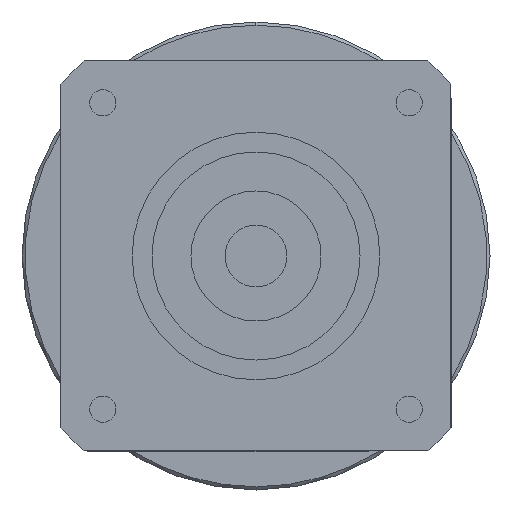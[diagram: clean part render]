
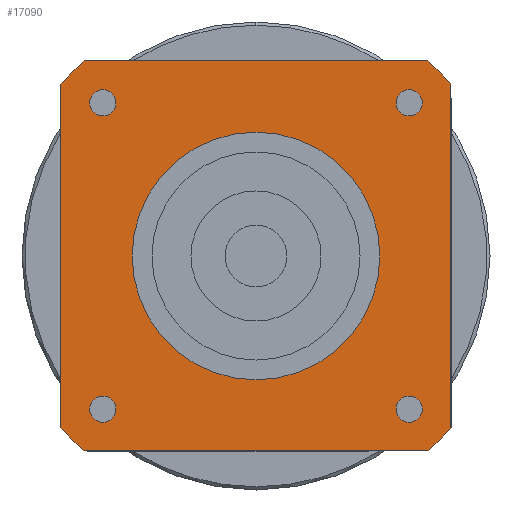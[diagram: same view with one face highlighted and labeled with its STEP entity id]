
A CAD part, left-side view. The second image highlights one B-rep face of the part: STEP entity #17090.
In plain terms, the highlighted planar face has unit normal (-1, 0, 0) as drawn and (0, 0, -1) by its records, which use the part's own axes.
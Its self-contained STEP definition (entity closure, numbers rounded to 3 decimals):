
#12050=CARTESIAN_POINT('',(-30.,26.458,-90.));
#12060=VERTEX_POINT('',#12050);
#12240=CARTESIAN_POINT('',(-30.,-26.458,-90.));
#12250=VERTEX_POINT('',#12240);
#12280=CARTESIAN_POINT('',(-30.,30.,-90.));
#12290=DIRECTION('',(0.,-1.,0.));
#12300=VECTOR('',#12290,1000.);
#12310=LINE('',#12280,#12300);
#12320=EDGE_CURVE('',#12060,#12250,#12310,.T.);
#12480=CARTESIAN_POINT('',(26.458,-30.,-90.));
#12490=VERTEX_POINT('',#12480);
#12650=CARTESIAN_POINT('',(30.,-26.458,-90.));
#12660=VERTEX_POINT('',#12650);
#12690=CARTESIAN_POINT('',(0.,0.,
-90.));
#12700=DIRECTION('',(0.,0.,1.));
#12710=DIRECTION('',(0.,-1.,0.));
#12720=AXIS2_PLACEMENT_3D('',#12690,#12700,#12710);
#12730=CIRCLE('',#12720,40.);
#12740=EDGE_CURVE('',#12490,#12660,#12730,.T.);
#14920=CARTESIAN_POINT('',(-26.458,-30.,-90.));
#14930=VERTEX_POINT('',#14920);
#14960=CARTESIAN_POINT('',(0.,0.,
-90.));
#14970=DIRECTION('',(0.,0.,1.));
#14980=DIRECTION('',(0.,-1.,0.));
#14990=AXIS2_PLACEMENT_3D('',#14960,#14970,#14980);
#15000=CIRCLE('',#14990,40.);
#15010=EDGE_CURVE('',#12250,#14930,#15000,.T.);
#15170=CARTESIAN_POINT('',(26.458,30.,-90.));
#15180=VERTEX_POINT('',#15170);
#15360=CARTESIAN_POINT('',(-26.458,30.,-90.));
#15370=VERTEX_POINT('',#15360);
#15400=CARTESIAN_POINT('',(30.,30.,-90.));
#15410=DIRECTION('',(-1.,0.,0.));
#15420=VECTOR('',#15410,1000.);
#15430=LINE('',#15400,#15420);
#15440=EDGE_CURVE('',#15180,#15370,#15430,.T.);
#15630=CARTESIAN_POINT('',(0.,0.,
-90.));
#15640=DIRECTION('',(0.,0.,1.));
#15650=DIRECTION('',(0.,-1.,0.));
#15660=AXIS2_PLACEMENT_3D('',#15630,#15640,#15650);
#15670=CIRCLE('',#15660,40.);
#15680=EDGE_CURVE('',#15370,#12060,#15670,.T.);
#15810=CARTESIAN_POINT('',(-30.,30.,-90.));
#15820=DIRECTION('',(0.,0.,1.));
#15830=DIRECTION('',(-1.,0.,0.));
#15840=AXIS2_PLACEMENT_3D('',#15810,#15820,#15830);
#15850=PLANE('',#15840);
#15860=CARTESIAN_POINT('',(23.571,-23.571,-90.));
#15870=DIRECTION('',(0.,0.,-1.));
#15880=DIRECTION('',(1.,0.,0.));
#15890=AXIS2_PLACEMENT_3D('',#15860,#15870,#15880);
#15900=CIRCLE('',#15890,2.);
#15910=CARTESIAN_POINT('',(25.571,-23.571,-90.));
#15920=VERTEX_POINT('',#15910);
#15930=CARTESIAN_POINT('',(23.571,-25.571,-90.));
#15940=VERTEX_POINT('',#15930);
#15950=EDGE_CURVE('',#15920,#15940,#15900,.T.);
#15960=ORIENTED_EDGE('',*,*,#15950,.F.);
#15970=CARTESIAN_POINT('',(23.571,-21.571,-90.));
#15980=VERTEX_POINT('',#15970);
#15990=EDGE_CURVE('',#15940,#15980,#15900,.T.);
#16000=ORIENTED_EDGE('',*,*,#15990,.F.);
#16010=EDGE_CURVE('',#15980,#15920,#15900,.T.);
#16020=ORIENTED_EDGE('',*,*,#16010,.F.);
#16030=EDGE_LOOP('',(#16020,#16000,#15960));
#16040=FACE_BOUND('',#16030,.T.);
#16050=CARTESIAN_POINT('',(23.571,23.571,-90.));
#16060=DIRECTION('',(0.,0.,-1.));
#16070=DIRECTION('',(0.,1.,0.));
#16080=AXIS2_PLACEMENT_3D('',#16050,#16060,#16070);
#16090=CIRCLE('',#16080,2.);
#16100=CARTESIAN_POINT('',(23.571,25.571,-90.));
#16110=VERTEX_POINT('',#16100);
#16120=CARTESIAN_POINT('',(25.571,23.571,-90.));
#16130=VERTEX_POINT('',#16120);
#16140=EDGE_CURVE('',#16110,#16130,#16090,.T.);
#16150=ORIENTED_EDGE('',*,*,#16140,.F.);
#16160=CARTESIAN_POINT('',(21.571,23.571,-90.));
#16170=VERTEX_POINT('',#16160);
#16180=EDGE_CURVE('',#16130,#16170,#16090,.T.);
#16190=ORIENTED_EDGE('',*,*,#16180,.F.);
#16200=EDGE_CURVE('',#16170,#16110,#16090,.T.);
#16210=ORIENTED_EDGE('',*,*,#16200,.F.);
#16220=EDGE_LOOP('',(#16210,#16190,#16150));
#16230=FACE_BOUND('',#16220,.T.);
#16240=CARTESIAN_POINT('',(-23.571,23.571,-90.));
#16250=DIRECTION('',(0.,0.,-1.));
#16260=DIRECTION('',(-1.,0.,0.));
#16270=AXIS2_PLACEMENT_3D('',#16240,#16250,#16260);
#16280=CIRCLE('',#16270,2.);
#16290=CARTESIAN_POINT('',(-25.571,23.571,-90.));
#16300=VERTEX_POINT('',#16290);
#16310=CARTESIAN_POINT('',(-23.571,25.571,-90.));
#16320=VERTEX_POINT('',#16310);
#16330=EDGE_CURVE('',#16300,#16320,#16280,.T.);
#16340=ORIENTED_EDGE('',*,*,#16330,.F.);
#16350=CARTESIAN_POINT('',(-23.571,21.571,-90.));
#16360=VERTEX_POINT('',#16350);
#16370=EDGE_CURVE('',#16320,#16360,#16280,.T.);
#16380=ORIENTED_EDGE('',*,*,#16370,.F.);
#16390=EDGE_CURVE('',#16360,#16300,#16280,.T.);
#16400=ORIENTED_EDGE('',*,*,#16390,.F.);
#16410=EDGE_LOOP('',(#16400,#16380,#16340));
#16420=FACE_BOUND('',#16410,.T.);
#16430=CARTESIAN_POINT('',(-23.571,-23.571,-90.));
#16440=DIRECTION('',(0.,0.,-1.));
#16450=DIRECTION('',(0.,-1.,0.));
#16460=AXIS2_PLACEMENT_3D('',#16430,#16440,#16450);
#16470=CIRCLE('',#16460,2.);
#16480=CARTESIAN_POINT('',(-23.571,-25.571,-90.));
#16490=VERTEX_POINT('',#16480);
#16500=CARTESIAN_POINT('',(-25.571,-23.571,-90.));
#16510=VERTEX_POINT('',#16500);
#16520=EDGE_CURVE('',#16490,#16510,#16470,.T.);
#16530=ORIENTED_EDGE('',*,*,#16520,.F.);
#16540=CARTESIAN_POINT('',(-21.571,-23.571,-90.));
#16550=VERTEX_POINT('',#16540);
#16560=EDGE_CURVE('',#16510,#16550,#16470,.T.);
#16570=ORIENTED_EDGE('',*,*,#16560,.F.);
#16580=EDGE_CURVE('',#16550,#16490,#16470,.T.);
#16590=ORIENTED_EDGE('',*,*,#16580,.F.);
#16600=EDGE_LOOP('',(#16590,#16570,#16530));
#16610=FACE_BOUND('',#16600,.T.);
#16620=ORIENTED_EDGE('',*,*,#15010,.F.);
#16630=CARTESIAN_POINT('',(-30.,-30.,-90.));
#16640=DIRECTION('',(1.,0.,0.));
#16650=VECTOR('',#16640,1000.);
#16660=LINE('',#16630,#16650);
#16670=EDGE_CURVE('',#14930,#12490,#16660,.T.);
#16680=ORIENTED_EDGE('',*,*,#16670,.F.);
#16690=ORIENTED_EDGE('',*,*,#12740,.F.);
#16700=CARTESIAN_POINT('',(30.,-30.,-90.));
#16710=DIRECTION('',(0.,1.,0.));
#16720=VECTOR('',#16710,1000.);
#16730=LINE('',#16700,#16720);
#16740=CARTESIAN_POINT('',(30.,26.458,-90.));
#16750=VERTEX_POINT('',#16740);
#16760=EDGE_CURVE('',#12660,#16750,#16730,.T.);
#16770=ORIENTED_EDGE('',*,*,#16760,.F.);
#16780=CARTESIAN_POINT('',(0.,0.,
-90.));
#16790=DIRECTION('',(0.,0.,1.));
#16800=DIRECTION('',(0.,-1.,0.));
#16810=AXIS2_PLACEMENT_3D('',#16780,#16790,#16800);
#16820=CIRCLE('',#16810,40.);
#16830=EDGE_CURVE('',#16750,#15180,#16820,.T.);
#16840=ORIENTED_EDGE('',*,*,#16830,.F.);
#16850=ORIENTED_EDGE('',*,*,#15440,.F.);
#16860=ORIENTED_EDGE('',*,*,#15680,.F.);
#16870=ORIENTED_EDGE('',*,*,#12320,.F.);
#16880=EDGE_LOOP('',(#16870,#16860,#16850,#16840,#16770,#16690,#16680,
#16620));
#16890=FACE_OUTER_BOUND('',#16880,.T.);
#16900=CARTESIAN_POINT('',(0.,0.,
-90.));
#16910=DIRECTION('',(0.,0.,1.));
#16920=DIRECTION('',(0.,-1.,0.));
#16930=AXIS2_PLACEMENT_3D('',#16900,#16910,#16920);
#16940=CIRCLE('',#16930,19.05);
#16950=CARTESIAN_POINT('',(19.05,0.,-90.));
#16960=VERTEX_POINT('',#16950);
#16970=CARTESIAN_POINT('',(-19.05,0.,-90.));
#16980=VERTEX_POINT('',#16970);
#16990=EDGE_CURVE('',#16960,#16980,#16940,.T.);
#17000=ORIENTED_EDGE('',*,*,#16990,.T.);
#17010=CARTESIAN_POINT('',(0.,-19.05,-90.));
#17020=VERTEX_POINT('',#17010);
#17030=EDGE_CURVE('',#17020,#16960,#16940,.T.);
#17040=ORIENTED_EDGE('',*,*,#17030,.T.);
#17050=EDGE_CURVE('',#16980,#17020,#16940,.T.);
#17060=ORIENTED_EDGE('',*,*,#17050,.T.);
#17070=EDGE_LOOP('',(#17060,#17040,#17000));
#17080=FACE_BOUND('',#17070,.T.);
#17090=ADVANCED_FACE('',(#16040,#16230,#16420,#16610,#16890,#17080),
#15850,.F.);
